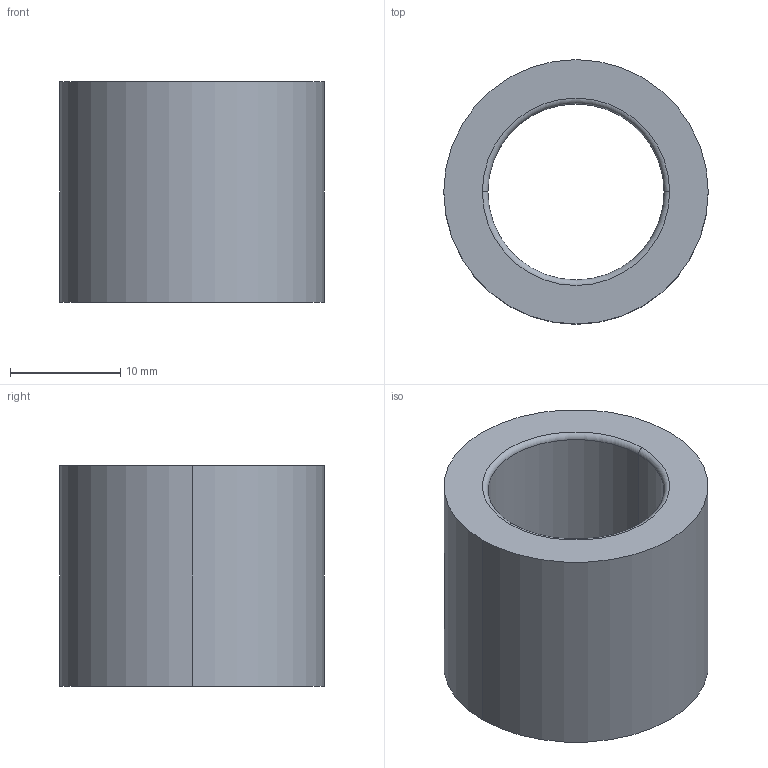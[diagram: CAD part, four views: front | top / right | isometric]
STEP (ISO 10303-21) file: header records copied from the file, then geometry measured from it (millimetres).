
FILE_DESCRIPTION(/* description */ (''),/* implementation_level */ '2;1');
FILE_NAME(/* name */ '3d_sgbz16-20_00301_r00.stp',/* time_stamp */ '2011-01-10T14:11:12+09:00',/* author */ ('MISUMI'),/* organization */ (''),/* preprocessor_version */ 'ST-DEVELOPER v11',/* originating_system */ 'UGS - NX 5.0',/* authorisation */ '');
FILE_SCHEMA (('CONFIG_CONTROL_DESIGN'));
Length unit declared in the file: millimetre
Products named in the file (1): 3d_sgbz16-20_00301_r00
Bounding box: 24 x 24 x 20 mm (x, y, z)
Volume: 5021.1 mm3; surface area: 2994.6 mm2
Topology: 1 solids, 1 shells, 10 faces, 20 edges, 12 vertices
Faces by surface type: cylinder 4, torus 4, plane 2
Entity records: 358 total; most frequent: DIRECTION 58, CARTESIAN_POINT 43, ORIENTED_EDGE 40, AXIS2_PLACEMENT_3D 27, EDGE_CURVE 20, CIRCLE 16, EDGE_LOOP 12, VERTEX_POINT 12
